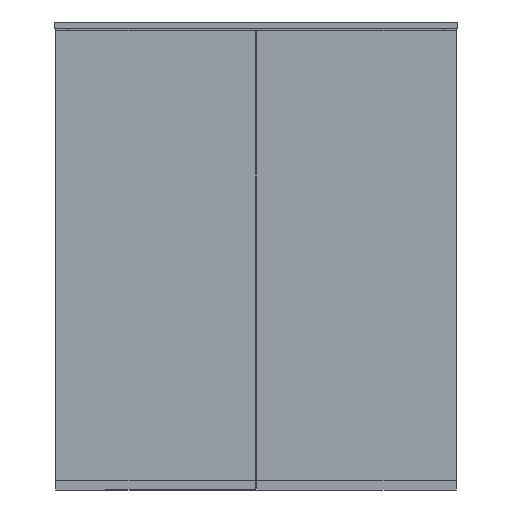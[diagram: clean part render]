
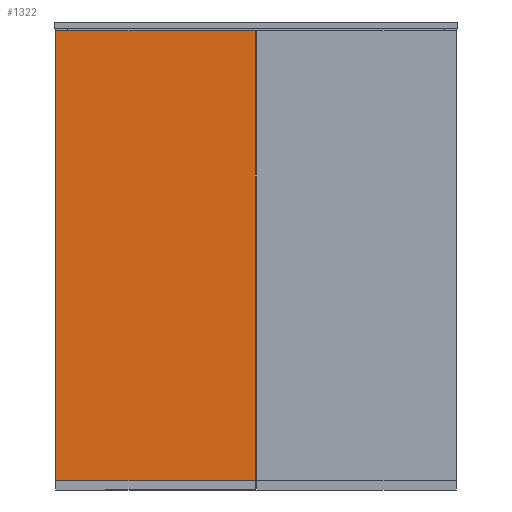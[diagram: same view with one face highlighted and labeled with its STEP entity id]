
A CAD part, front view. The second image highlights one B-rep face of the part: STEP entity #1322.
In plain terms, the highlighted planar face has unit normal (0, -1, 0).
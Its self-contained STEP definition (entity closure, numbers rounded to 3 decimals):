
#68=FACE_OUTER_BOUND('',#138,.T.);
#138=EDGE_LOOP('',(#1058,#1059,#1060,#1061));
#288=LINE('',#2004,#462);
#290=LINE('',#2008,#464);
#293=LINE('',#2014,#467);
#294=LINE('',#2015,#468);
#462=VECTOR('',#1653,10.);
#464=VECTOR('',#1657,10.);
#467=VECTOR('',#1662,10.);
#468=VECTOR('',#1663,10.);
#594=VERTEX_POINT('',#2001);
#595=VERTEX_POINT('',#2003);
#596=VERTEX_POINT('',#2007);
#598=VERTEX_POINT('',#2013);
#752=EDGE_CURVE('',#595,#594,#288,.T.);
#754=EDGE_CURVE('',#596,#595,#290,.T.);
#757=EDGE_CURVE('',#598,#594,#293,.T.);
#758=EDGE_CURVE('',#596,#598,#294,.T.);
#1058=ORIENTED_EDGE('',*,*,#752,.T.);
#1059=ORIENTED_EDGE('',*,*,#757,.F.);
#1060=ORIENTED_EDGE('',*,*,#758,.F.);
#1061=ORIENTED_EDGE('',*,*,#754,.T.);
#1189=PLANE('',#1409);
#1322=ADVANCED_FACE('',(#68),#1189,.T.);
#1409=AXIS2_PLACEMENT_3D('',#2012,#1660,#1661);
#1653=DIRECTION('',(0.,0.,1.));
#1657=DIRECTION('',(1.,0.,0.));
#1660=DIRECTION('center_axis',(0.,-1.,0.));
#1661=DIRECTION('ref_axis',(0.,0.,-1.));
#1662=DIRECTION('',(1.,0.,0.));
#1663=DIRECTION('',(0.,0.,1.));
#2001=CARTESIAN_POINT('',(-1.,-150.,672.));
#2003=CARTESIAN_POINT('',(-1.,-150.,0.));
#2004=CARTESIAN_POINT('',(-1.,-150.,329.));
#2007=CARTESIAN_POINT('',(-299.,-150.,0.));
#2008=CARTESIAN_POINT('',(0.,-150.,0.));
#2012=CARTESIAN_POINT('Origin',(0.,-150.,672.));
#2013=CARTESIAN_POINT('',(-299.,-150.,672.));
#2014=CARTESIAN_POINT('',(0.,-150.,672.));
#2015=CARTESIAN_POINT('',(-299.,-150.,672.));
